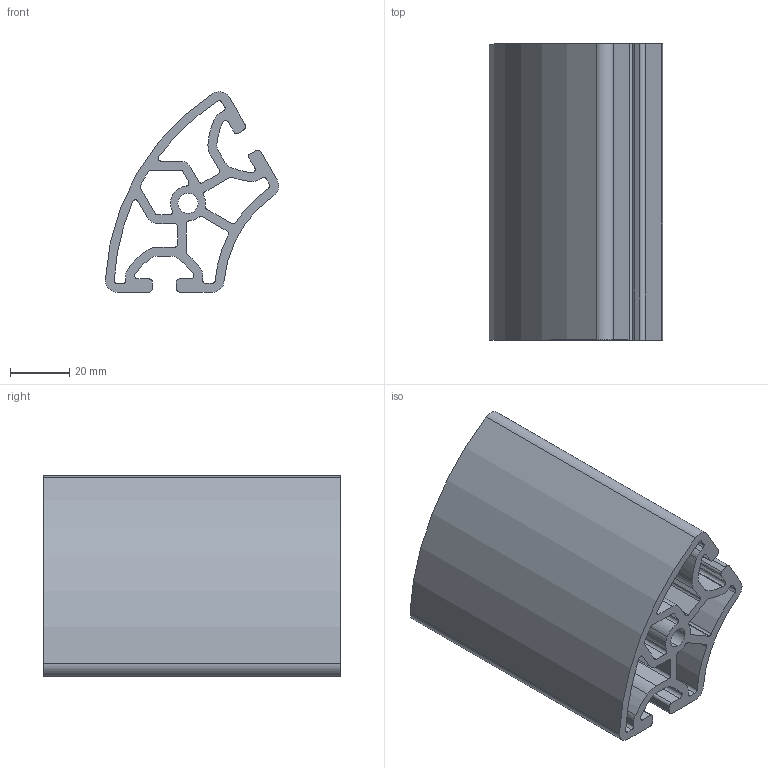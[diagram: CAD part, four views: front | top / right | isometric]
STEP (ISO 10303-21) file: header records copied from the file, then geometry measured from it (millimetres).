
FILE_DESCRIPTION (( 'STEP AP203' ), '1' );
FILE_NAME ('0108PR40-80-60L.STEP', '2024-02-29T12:51:01', ( 'Windows-Benutzer' ), ( '' ), 'SwSTEP 2.0', 'SolidWorks 2023', '' );
FILE_SCHEMA (( 'CONFIG_CONTROL_DESIGN' ));
Length unit declared in the file: millimetre
Products named in the file (1): 0108PR40-80-60L
Bounding box: 58.51 x 100 x 67.72 mm (x, y, z)
Volume: 105566 mm3; surface area: 65473.7 mm2
Topology: 1 solids, 1 shells, 122 faces, 360 edges, 240 vertices
Faces by surface type: cylinder 82, plane 40
Entity records: 4249 total; most frequent: DIRECTION 770, CARTESIAN_POINT 723, ORIENTED_EDGE 720, EDGE_CURVE 360, AXIS2_PLACEMENT_3D 287, VERTEX_POINT 240, VECTOR 196, LINE 196
